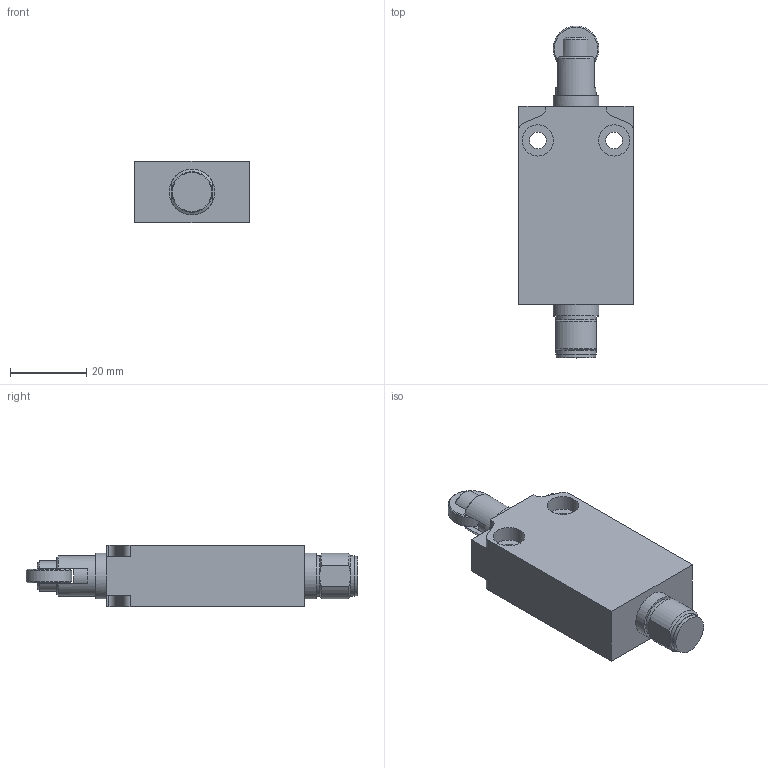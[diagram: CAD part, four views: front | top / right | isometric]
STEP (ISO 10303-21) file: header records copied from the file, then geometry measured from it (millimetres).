
FILE_DESCRIPTION(/* description */ (''),/* implementation_level */ '2;1');
FILE_NAME(/* name */ 'C:\Users\servizio.tecnico\Desktop\BERNSTEIN\3D\STP_EM1_G1201MC.stp',/* time_stamp */ '2020-06-26T10:02:50+02:00',/* author */ ('servizio.tecnico'),/* organization */ (''),/* preprocessor_version */ 'ST-DEVELOPER v17',/* originating_system */ 'Autodesk Inventor 2019',/* authorisation */ '');
FILE_SCHEMA (('AUTOMOTIVE_DESIGN { 1 0 10303 214 3 1 1 }'));
Length unit declared in the file: millimetre
Products named in the file (5): STP_EM1_G12M; EM1G12-M; Product; MC; Product_1
Assembly tree (4 placements, depth 3):
  STP_EM1_G12M
    EM1G12-M
      Product
    MC
      Product_1
Bounding box: 30 x 87 x 16 mm (x, y, z)
Volume: 26225.5 mm3; surface area: 9350.8 mm2
Topology: 5 solids, 5 shells, 111 faces, 271 edges, 180 vertices
Faces by surface type: plane 62, cylinder 35, cone 14
Full cylindrical faces by diameter (mm): 4.4 x2, 5.6 x2, 7.95 x1, 8.05 x1, 8.2 x4, 10.3 x1, 10.5 x1, 10.6 x2, 12 x3
Entity records: 3508 total; most frequent: CARTESIAN_POINT 619, DIRECTION 595, ORIENTED_EDGE 542, EDGE_CURVE 271, AXIS2_PLACEMENT_3D 228, VERTEX_POINT 180, LINE 139, VECTOR 139
